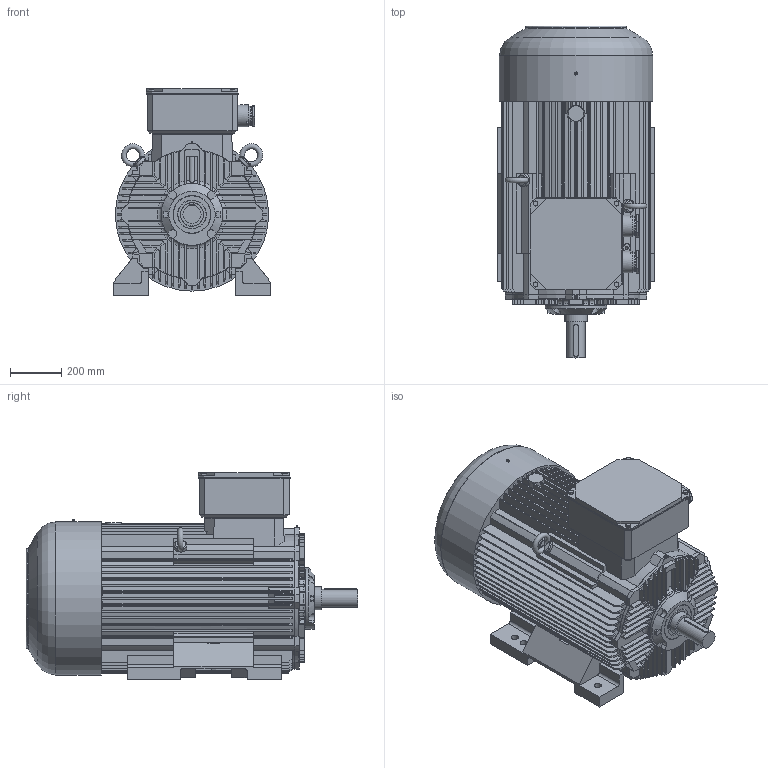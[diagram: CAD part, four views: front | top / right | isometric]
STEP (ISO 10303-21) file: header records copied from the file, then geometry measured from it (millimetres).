
FILE_DESCRIPTION( ( 'Unknown' ), '1' );
FILE_NAME( 'C:/Documents and Settings/kwalica/Pulpit/2,3 SIE paczka/3SIE 315/STP/3SIE315_M2C.stp', 'Unknown', ( 'Unknown' ), ( 'Unknown' ), 'XStep 1.0', 'Unknown', ' ' );
FILE_SCHEMA( ( 'CONFIG_CONTROL_DESIGN' ) );
Length unit declared in the file: millimetre
Products named in the file (6): 1; 2; 3; 4; 5; 6
Bounding box: 610.02 x 1290 x 804.5 mm (x, y, z)
Volume: 284075677 mm3; surface area: 6913238 mm2
Topology: 6 solids, 22 shells, 1466 faces, 4001 edges, 2634 vertices
Faces by surface type: plane 969, cylinder 303, cone 99, torus 79, bspline 16
Full cylindrical faces by diameter (mm): 1.6 x2, 5 x3, 10.106 x4, 13.835 x1, 16.63 x4, 24 x4, 28 x6, 50 x2, 55 x2, 57 x4, 65 x4, 70 x3, 71 x6, 72 x2, 72.752 x2, 76 x2, 85 x2, 89.5 x1, 90 x1, 99.4 x1, 100 x1, 111.399 x1, 112 x1, 119.4 x1, 119.999 x1, 131.399 x1, 132 x1, 139.4 x1, 139.999 x1, 147 x1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
Entity records: 54742 total; most frequent: CARTESIAN_POINT 18043, ORIENTED_EDGE 7670, DIRECTION 7335, EDGE_CURVE 3835, VERTEX_POINT 2590, LINE 2449, VECTOR 2449, AXIS2_PLACEMENT_3D 2443
